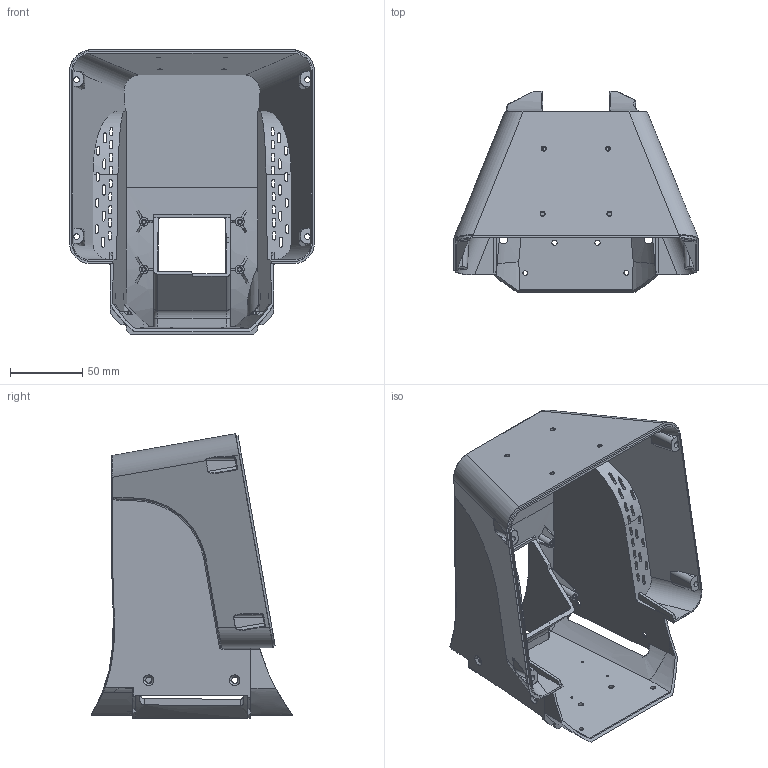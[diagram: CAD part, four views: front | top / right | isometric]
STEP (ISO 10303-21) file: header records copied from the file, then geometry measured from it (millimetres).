
FILE_DESCRIPTION((''),'2;1');
FILE_NAME('TOU-HK','2025-07-12T10:14:18',('Administrator'),(''),'CREO PARAMETRIC BY PTC INC, 2022073','CREO PARAMETRIC BY PTC INC, 2022073','');
FILE_SCHEMA(('CONFIG_CONTROL_DESIGN'));
Products named in the file (1): TOU-HK
Bounding box: 169.18 x 139.35 x 196.6 mm (x, y, z)
Volume: 231256.3 mm3; surface area: 176571.4 mm2
Topology: 1 solids, 1 shells, 885 faces, 2427 edges, 1540 vertices
Faces by surface type: cylinder 352, plane 289, bspline 190, torus 22, extrusion 22, cone 8, sphere 2
Entity records: 50873 total; most frequent: CARTESIAN_POINT 30374, ORIENTED_EDGE 4850, DIRECTION 3343, EDGE_CURVE 2425, VERTEX_POINT 1540, AXIS2_PLACEMENT_3D 1124, VECTOR 1095, LINE 1073
